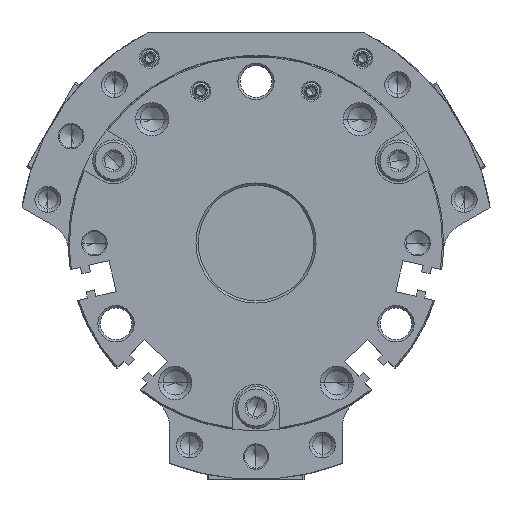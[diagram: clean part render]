
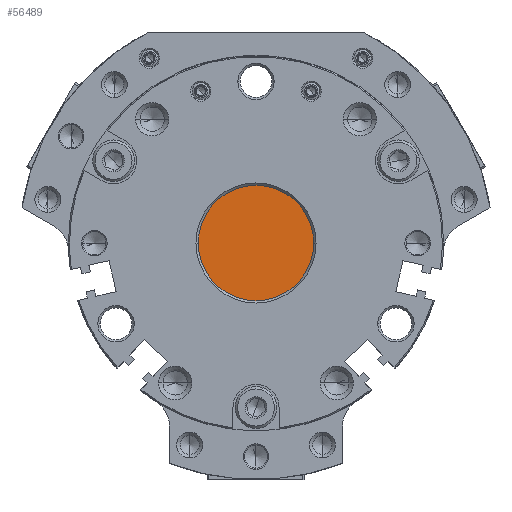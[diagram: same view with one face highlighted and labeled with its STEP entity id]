
A CAD part, front view. The second image highlights one B-rep face of the part: STEP entity #56489.
In plain terms, the highlighted planar face has unit normal (0, -1, 0).
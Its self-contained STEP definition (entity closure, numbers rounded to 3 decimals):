
#3957 = ORIENTED_EDGE ( 'NONE', *, *, #41170, .F. ) ;
#8101 = CARTESIAN_POINT ( 'NONE',  ( 0., 3.5, 0. ) ) ;
#9073 = AXIS2_PLACEMENT_3D ( 'NONE', #48379, #29750, #29458 ) ;
#16124 = VERTEX_POINT ( 'NONE', #50291 ) ;
#18898 = CARTESIAN_POINT ( 'NONE',  ( 0., 3.5, 0. ) ) ;
#22045 = VERTEX_POINT ( 'NONE', #38432 ) ;
#29458 = DIRECTION ( 'NONE',  ( 0., 0., 1. ) ) ;
#29750 = DIRECTION ( 'NONE',  ( 0., 1., 0. ) ) ;
#30969 = ORIENTED_EDGE ( 'NONE', *, *, #31513, .F. ) ;
#31118 = EDGE_LOOP ( 'NONE', ( #30969, #3957 ) ) ;
#31513 = EDGE_CURVE ( 'NONE', #16124, #22045, #56899, .T. ) ;
#32835 = DIRECTION ( 'NONE',  ( 0., 1., 0. ) ) ;
#33134 = DIRECTION ( 'NONE',  ( 0., 0., 1. ) ) ;
#35044 = DIRECTION ( 'NONE',  ( 0., 0., 1. ) ) ;
#38432 = CARTESIAN_POINT ( 'NONE',  ( 0., 3.5, -10. ) ) ;
#41170 = EDGE_CURVE ( 'NONE', #22045, #16124, #48695, .T. ) ;
#45895 = AXIS2_PLACEMENT_3D ( 'NONE', #8101, #57508, #35044 ) ;
#48379 = CARTESIAN_POINT ( 'NONE',  ( 0., 3.5, 0. ) ) ;
#48380 = AXIS2_PLACEMENT_3D ( 'NONE', #18898, #32835, #33134 ) ;
#48695 = CIRCLE ( 'NONE', #45895, 10. ) ;
#50291 = CARTESIAN_POINT ( 'NONE',  ( 0., 3.5, 10. ) ) ;
#56489 = ADVANCED_FACE ( 'NONE', ( #58457 ), #57564, .F. ) ;
#56899 = CIRCLE ( 'NONE', #48380, 10. ) ;
#57508 = DIRECTION ( 'NONE',  ( 0., 1., 0. ) ) ;
#57564 = PLANE ( 'NONE',  #9073 ) ;
#58457 = FACE_OUTER_BOUND ( 'NONE', #31118, .T. ) ;
